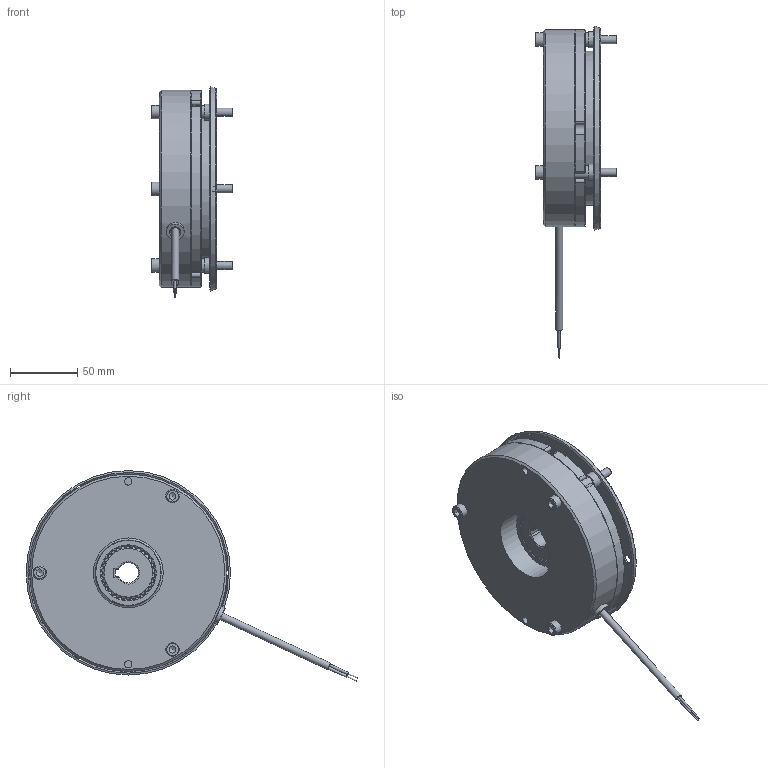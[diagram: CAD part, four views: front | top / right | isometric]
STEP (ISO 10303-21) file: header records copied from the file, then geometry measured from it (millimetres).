
FILE_DESCRIPTION(/* description */ (''),/* implementation_level */ '2;1');
FILE_NAME(/* name */ 'C:\SapWorkDir\Inventor\IP1\ConvertTempPath\5029491_IPT_000.ipt.stp',/* time_stamp */ '2021-04-21T08:28:11+02:00',/* author */ ('WOELK'),/* organization */ (''),/* preprocessor_version */ 'ST-DEVELOPER v17',/* originating_system */ 'Autodesk Inventor 2018',/* authorisation */ '');
FILE_SCHEMA (('AUTOMOTIVE_DESIGN { 1 0 10303 214 3 1 1 }'));
Products named in the file (1): 5029491
Bounding box: 61 x 247.33 x 157.12 mm (x, y, z)
Volume: 603874.3 mm3; surface area: 134229.6 mm2
Topology: 1 solids, 1 shells, 1707 faces, 5523 edges, 3669 vertices
Faces by surface type: cylinder 939, plane 395, torus 216, cone 96, bspline 61
Full cylindrical faces by diameter (mm): 1 x2, 1.85 x2, 5 x1, 5.3 x1, 5.5 x3, 6 x3, 6.15 x3, 6.5 x3, 6.6 x7, 8.917 x3, 10 x6, 10.4 x3, 12 x3, 13.2 x1, 43.45 x1, 52 x2, 68 x1, 69.5 x2, 70.1 x2, 115 x1, 147 x1
Entity records: 68540 total; most frequent: CARTESIAN_POINT 18918, ORIENTED_EDGE 11042, DIRECTION 9457, EDGE_CURVE 5521, VERTEX_POINT 3669, AXIS2_PLACEMENT_3D 3647, LINE 2163, VECTOR 2163
